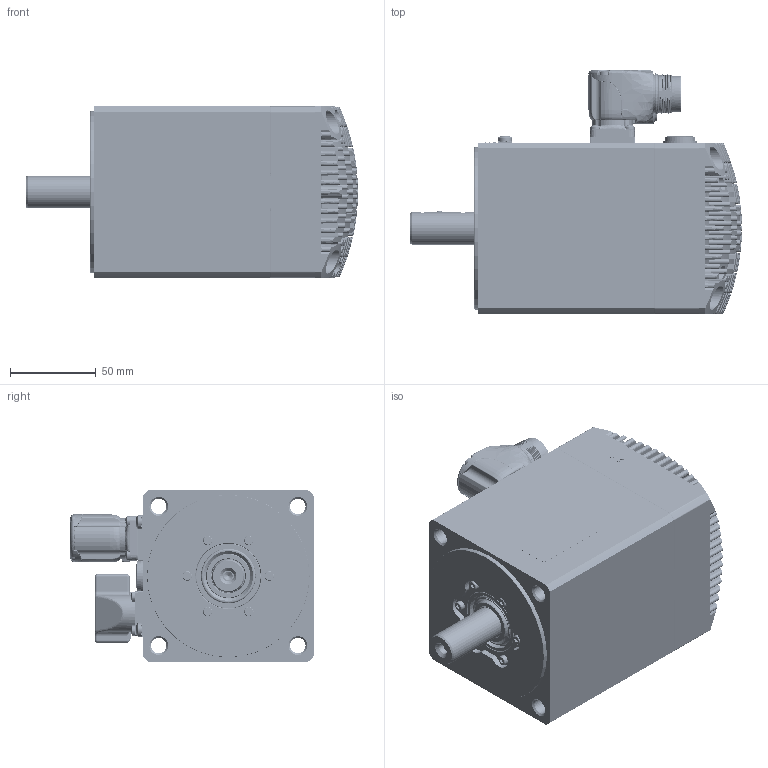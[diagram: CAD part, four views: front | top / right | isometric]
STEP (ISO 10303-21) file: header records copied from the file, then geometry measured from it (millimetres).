
FILE_DESCRIPTION((''),'2;1');
FILE_NAME('32190015651_ASM','2022-04-13T09:38:37',('gabrielec'),(''),'CREO PARAMETRIC BY PTC INC, 2021304','CREO PARAMETRIC BY PTC INC, 2021304','');
FILE_SCHEMA(('AP242_MANAGED_MODEL_BASED_3D_ENGINEERING_MIM_LF { 1 0 10303 442 1 1 4 }'));
Products named in the file (36): 52580N-0; 32149915564_ASM; 22320015067; 50938N-0; 22320015067_ASM; 32050015011_ASM; 32060015506_ASM; 51941N-1; 32090015023_ASM; NRG_001; M3X16_GBT70-1; GB_T862_1; M4X8_GBT818_CU; 32159915174_ASM; 22160015160; MENTOR-1292_9013; CEMBRE_FD9; CEMBRE_2053M16N; 32150015177_ASM; UNI7687_M3X8_INOX; CAN_OPEN; 33200203857_AF4_ASM; 31500203857_AF4_ASM; 50941N-0; UNI7687_M3X6_INOX; UNI5931_M3X6_INOX; 22210015021; 32150015175_ASM; UNI5931_M4X16; LIP_SEAL_TW05; 22250015024; 22250015127; 43500000229; 43500000050; PHOENIX_1605512; 32190015651_ASM
Assembly tree (63 placements, depth 7):
  32190015651_ASM
    32159915174_ASM
      32149915564_ASM
        52580N-0
      32090015023_ASM
        32060015506_ASM
          32050015011_ASM
            22320015067_ASM
              22320015067
              50938N-0
        51941N-1
      NRG_001  x6
      M3X16_GBT70-1  x6
      GB_T862_1  x2
      M4X8_GBT818_CU  x2
    32150015177_ASM
      22160015160
      MENTOR-1292_9013  x8
      CEMBRE_FD9
      CEMBRE_2053M16N
    UNI7687_M3X8_INOX  x4
    31500203857_AF4_ASM
      33200203857_AF4_ASM
        CAN_OPEN
    50941N-0  x2
    UNI7687_M3X6_INOX  x3
    UNI5931_M3X6_INOX
    32150015175_ASM
      22210015021
    UNI5931_M4X16  x4
    LIP_SEAL_TW05
    22250015024
    22250015127
    43500000229
    43500000050
    PHOENIX_1605512
Bounding box: 194 x 142.41 x 100.8 mm (x, y, z)
Volume: 574152.5 mm3; surface area: 277577.1 mm2
Topology: 73 solids, 100 shells, 4365 faces, 10973 edges, 6946 vertices
Faces by surface type: plane 1463, cylinder 1040, cone 649, bspline 596, torus 352, sphere 243, revolution 11, extrusion 11
Entity records: 188706 total; most frequent: CARTESIAN_POINT 66448, ORIENTED_EDGE 19250, DIRECTION 17324, PRESENTATION_STYLE_ASSIGNMENT 9907, EDGE_CURVE 9680, STYLED_ITEM 9677, CURVE_STYLE 9606, AXIS2_PLACEMENT_3D 6762
